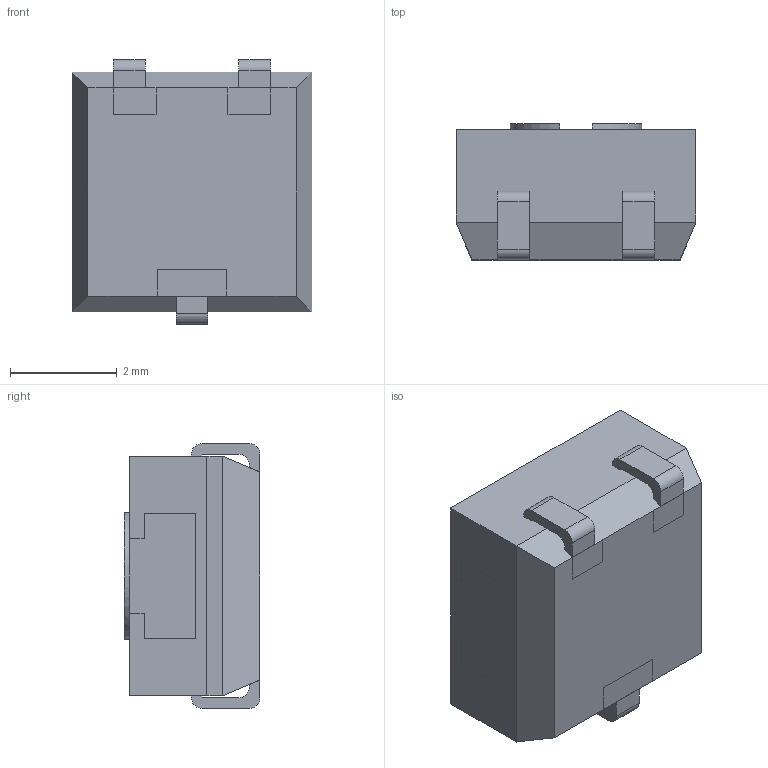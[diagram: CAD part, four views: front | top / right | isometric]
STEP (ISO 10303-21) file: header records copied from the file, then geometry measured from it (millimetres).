
FILE_DESCRIPTION (( 'STEP AP214' ), '1' );
FILE_NAME ('3314J-2-504E.STEP', '2022-09-13T12:12:13', ( '' ), ( '' ), 'SwSTEP 2.0', 'SolidWorks 2018', '' );
FILE_SCHEMA (( 'AUTOMOTIVE_DESIGN' ));
Length unit declared in the file: millimetre
Products named in the file (1): 3314J-2-504E
Bounding box: 4.5 x 2.55 x 4.97 mm (x, y, z)
Volume: 48.1 mm3; surface area: 98.3 mm2
Topology: 4 solids, 4 shells, 86 faces, 252 edges, 192 vertices
Faces by surface type: plane 69, cylinder 17
Entity records: 3483 total; most frequent: CARTESIAN_POINT 531, ORIENTED_EDGE 504, DIRECTION 472, EDGE_CURVE 252, VECTOR 206, LINE 206, VERTEX_POINT 192, AXIS2_PLACEMENT_3D 133
